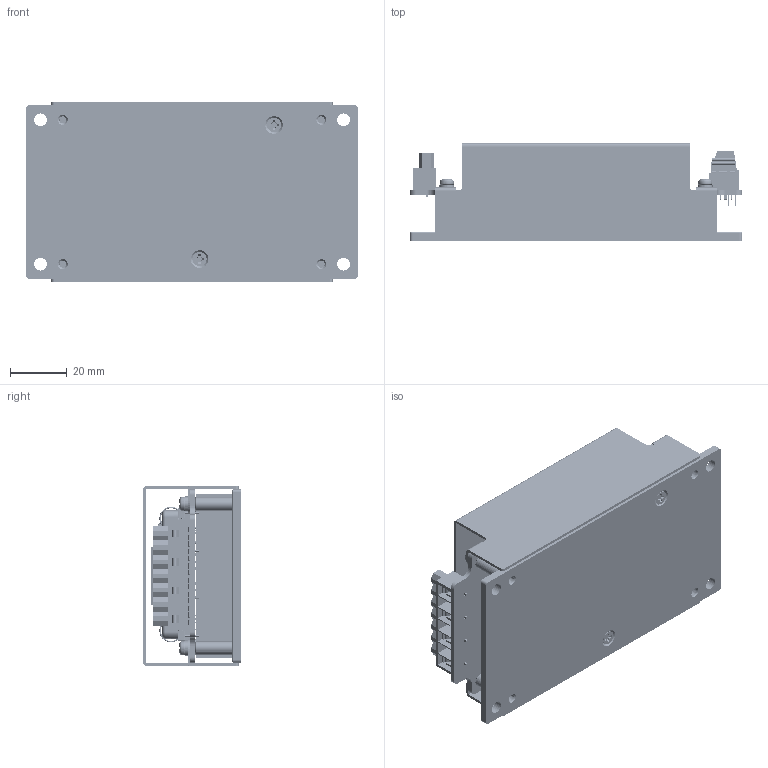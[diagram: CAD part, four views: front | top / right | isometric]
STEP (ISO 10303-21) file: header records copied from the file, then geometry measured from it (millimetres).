
FILE_DESCRIPTION (( 'STEP AP203' ), '1' );
FILE_NAME ('CQBXXX-300S-CMFD 202.07.19.STEP', '2023-07-20T00:14:15', ( '' ), ( '' ), 'SwSTEP 2.0', 'SolidWorks 2020', '' );
FILE_SCHEMA (( 'CONFIG_CONTROL_DESIGN' ));
Products named in the file (1): CQBXXX-300S-CMFD 202.07.19
Bounding box: 116.84 x 34.3 x 63.36 mm (x, y, z)
Volume: 82294.6 mm3; surface area: 76104.4 mm2
Topology: 16 solids, 16 shells, 2713 faces, 9129 edges, 5820 vertices
Faces by surface type: plane 1595, bspline 517, cylinder 410, cone 98, torus 59, sphere 34
Full cylindrical faces by diameter (mm): 0.5 x8, 0.8 x6, 0.9 x4, 1 x14, 1.15 x6, 1.2 x6, 1.5 x4, 1.65 x2, 1.8 x2, 2.2 x12, 2.6 x7, 3.2 x13, 3.25 x1, 3.5 x4, 3.8 x4, 3.9 x7, 4 x6, 4.3 x2, 4.445 x1, 4.45 x4, 4.5 x7, 4.7 x10, 5 x4, 7.8 x1, 8 x1, 8.8 x1, 12.6 x2
Entity records: 468631 total; most frequent: CARTESIAN_POINT 397821, ORIENTED_EDGE 17600, DIRECTION 11034, EDGE_CURVE 8800, VERTEX_POINT 5732, LINE 4496, VECTOR 4496, EDGE_LOOP 3320
